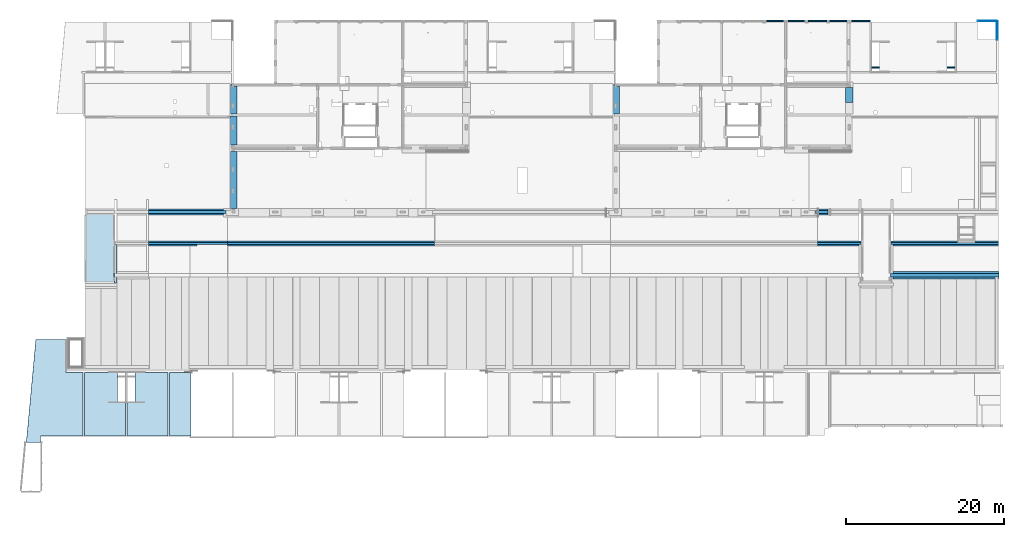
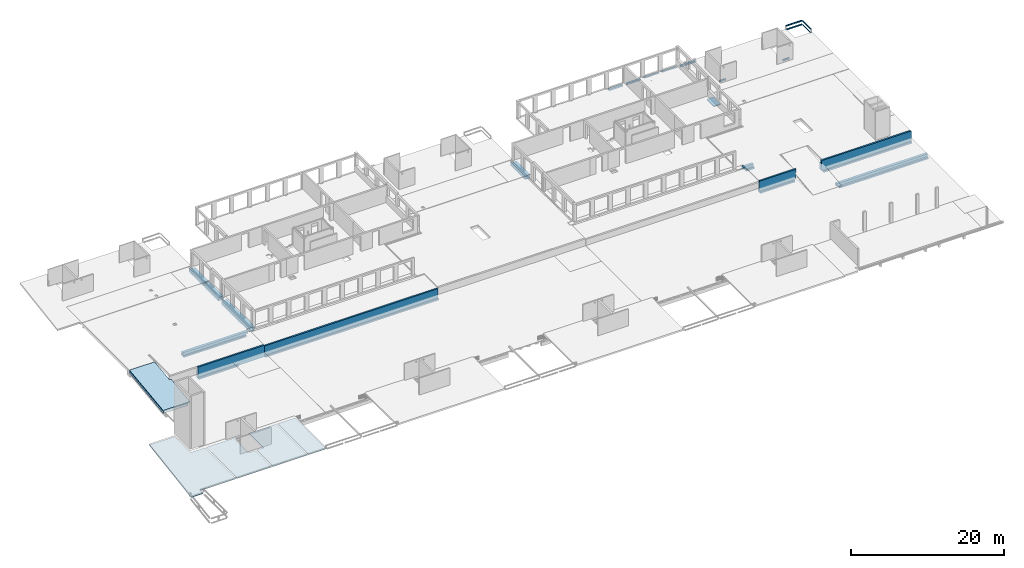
# One storey, part 14 of 36: 20 beams, 6 slabs, 1 opening.
"""IFC2X3 building model written with IfcOpenShell, lengths in millimetres."""

from ifc_helpers import new_model, entity, si_unit, converted_unit, derived_unit, direction, frame, frame_2d, origin, origin_2d_with_axis, place, context, subcontext, project, spatial, polyline, circle_curve, parameter, trimmed, segment, composite_curve, rectangle, i_section, outline, extrude, clip, halfspace, faceted_brep, source, transform, mapped, material, layer, layer_set, layer_usage, type_object, type_shapes, element, save


model = new_model("IFC2X3")

# Units and contexts
model_context = context("Model", 3, precision=0.01, world=origin(), true_north=direction((6.12303176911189e-17, 1.0)))
body_context = subcontext(model_context, "Body", "Model", "MODEL_VIEW")
ifc_project = project(units=[si_unit("LENGTHUNIT", "METRE", prefix="MILLI"), si_unit("AREAUNIT", "SQUARE_METRE"), si_unit("VOLUMEUNIT", "CUBIC_METRE"), converted_unit("PLANEANGLEUNIT", "DEGREE", entity("IfcRatioMeasure", 0.0174532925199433), si_unit("PLANEANGLEUNIT", "RADIAN"), dimensions=[0, 0, 0, 0, 0, 0, 0]), si_unit("MASSUNIT", "GRAM", prefix="KILO"), derived_unit("MASSDENSITYUNIT", [(si_unit("MASSUNIT", "GRAM", prefix="KILO"), 1), (si_unit("LENGTHUNIT", "METRE"), -3)]), si_unit("TIMEUNIT", "SECOND"), si_unit("FREQUENCYUNIT", "HERTZ"), si_unit("THERMODYNAMICTEMPERATUREUNIT", "DEGREE_CELSIUS"), derived_unit("THERMALTRANSMITTANCEUNIT", [(si_unit("MASSUNIT", "GRAM", prefix="KILO"), 1), (si_unit("THERMODYNAMICTEMPERATUREUNIT", "KELVIN"), -1), (si_unit("TIMEUNIT", "SECOND"), -3)]), derived_unit("VOLUMETRICFLOWRATEUNIT", [(si_unit("LENGTHUNIT", "METRE"), 3), (si_unit("TIMEUNIT", "SECOND"), -1)]), si_unit("ELECTRICCURRENTUNIT", "AMPERE"), si_unit("ELECTRICVOLTAGEUNIT", "VOLT"), si_unit("POWERUNIT", "WATT"), si_unit("FORCEUNIT", "NEWTON", prefix="KILO"), si_unit("ILLUMINANCEUNIT", "LUX"), si_unit("LUMINOUSFLUXUNIT", "LUMEN"), si_unit("LUMINOUSINTENSITYUNIT", "CANDELA"), derived_unit("USERDEFINED", [(si_unit("MASSUNIT", "GRAM", prefix="KILO"), -1), (si_unit("LENGTHUNIT", "METRE"), -2), (si_unit("TIMEUNIT", "SECOND"), 3), (si_unit("LUMINOUSFLUXUNIT", "LUMEN"), 1)]), derived_unit("LINEARVELOCITYUNIT", [(si_unit("LENGTHUNIT", "METRE"), 1), (si_unit("TIMEUNIT", "SECOND"), -1)]), si_unit("PRESSUREUNIT", "PASCAL"), derived_unit("USERDEFINED", [(si_unit("LENGTHUNIT", "METRE"), -2), (si_unit("MASSUNIT", "GRAM", prefix="KILO"), 1), (si_unit("TIMEUNIT", "SECOND"), -2)])], contexts=[model_context])

# Site, building, storey
site_placement = place(None, origin())
site = spatial("IfcSite", under=ifc_project, at=site_placement, Name="Default", CompositionType="ELEMENT")
building_placement = place(site_placement, origin())
building = spatial("IfcBuilding", under=site, at=building_placement, Name="niet gebruiken", CompositionType="ELEMENT")
storey_placement = place(building_placement, frame((0.0, 0.0, 12600.0)))
storey = spatial("IfcBuildingStorey", under=building, at=storey_placement, Name="04 vierde verdieping", CompositionType="ELEMENT", Elevation=12600.0)

# Beams
ifc_material_1 = material(Name="NLRS_f2_beton ihwg")
beam_type_1 = type_object("IfcBeamType", Name="250x280", PredefinedType="BEAM", material=ifc_material_1)
beam_1_placement = place(storey_placement, frame((105095.0, 53131.0, -340.0)))
element("IfcBeam", 1, at=beam_1_placement, inside=storey, type_object=beam_type_1, material=ifc_material_1, Name="NLRS_28.11_SF_WPB_betonbalk ihwg recht_gen:250x280", ObjectType="NLRS_28.11_SF_WPB_betonbalk ihwg recht_gen:250x280", context=body_context, shape_type="SweptSolid", body=[
    extrude(rectangle(XDim=279.999999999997, YDim=250.000000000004, at=frame_2d((0.0, 1.29958266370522e-11), x_axis=(1.0, 0.0))), frame((515.0, 0.0, -140.0), z_axis=(1.0, 0.0, 0.0), x_axis=(0.0, 0.0, -1.0)), (0.0, 0.0, 1.0), 2369.99999999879),
])
beam_type_2 = type_object("IfcBeamType", Name="250x280", PredefinedType="BEAM", material=ifc_material_1)
shared_shape_1 = source(origin(), body_context, "Body", "SweptSolid", [
    extrude(rectangle(XDim=2080.0000000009, YDim=250.000000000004, at=frame_2d((-8.64019966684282e-12, 4.33431068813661e-12), x_axis=(1.0, 0.0))), frame((95850.0, 53131.0, 11980.0), z_axis=(0.0, 0.0, 1.0), x_axis=(-1.0, 0.0, 0.0)), (0.0, 0.0, 1.0), 279.999999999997),
    extrude(rectangle(XDim=2079.99999999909, YDim=250.000000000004, at=frame_2d((-8.64019966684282e-12, 4.33431068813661e-12), x_axis=(1.0, 0.0))), frame((98550.0, 53131.0, 11980.0)), (0.0, 0.0, 1.0), 279.999999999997),
])
type_shapes(beam_type_2, [shared_shape_1])
beam_2_placement = place(storey_placement, frame((0.0, 0.0, -12600.0)))
element("IfcBeam", 2, at=beam_2_placement, inside=storey, type_object=beam_type_2, material=ifc_material_1, Name="NLRS_28.11_SF_WPB_betonbalk ihwg recht_gen:250x280", ObjectType="250x280", context=body_context, shape_type="MappedRepresentation", body=[
    mapped(shared_shape_1, transform((0.0, 0.0, 0.0), scale=1.0)),
])
ifc_material_2 = material(Name="NLRS_f2_beton prefab")
beam_type_3 = type_object("IfcBeamType", Name="NLRS_28.11_SF_WPB_prefabbeton balk dubbele sponning_gen:800x660/200x410/200x410", PredefinedType="BEAM")
beam_3_placement = place(storey_placement, frame((100990.0, 28481.0, -900.0)))
element("IfcBeam", 3, at=beam_3_placement, inside=storey, type_object=beam_type_3, material=ifc_material_2, Name="NLRS_28.11_SF_WPB_prefabbeton balk dubbele sponning_gen:800x660/200x410/200x410", ObjectType="NLRS_28.11_SF_WPB_prefabbeton balk dubbele sponning_gen:800x660/200x410/200x410", context=body_context, shape_type="Brep", body=[
    faceted_brep([(0.0, 200.0, 660.0), (0.0, 600.0, 660.0), (0.0, 600.0, 335.0), (0.0, 200.0, 335.0), (1610.0, 600.0, 660.0), (1610.0, 200.0, 660.0), (1610.0, 200.0, 250.0), (1610.0, 0.0, 250.0), (1610.0, 0.0, 0.0), (1610.0, 800.0, 0.0), (1610.0, 800.0, 250.0), (1610.0, 600.0, 250.0), (400.0, 0.0, 250.0), (400.0, 0.0, 0.0), (400.0, 600.0, 250.0), (400.0, 600.0, 335.0), (400.0, 800.0, 250.0), (400.0, 200.0, 335.0), (400.0, 200.0, 250.0), (400.0, 800.0, 0.0)], [[[0, 1, 2, 3]], [[4, 5, 6, 7, 8, 9, 10, 11]], [[1, 0, 5, 4]], [[8, 7, 12, 13]], [[4, 11, 14, 15, 2, 1]], [[11, 10, 16, 14]], [[6, 5, 0, 3, 17, 18]], [[7, 6, 18, 12]], [[10, 9, 19, 16]], [[9, 8, 13, 19]], [[17, 15, 14, 16, 19, 13, 12, 18]], [[15, 17, 3, 2]]]),
])
beam_4_placement = place(storey_placement, frame((16345.0, 28481.0, -900.0)))
element("IfcBeam", 4, at=beam_4_placement, inside=storey, type_object=beam_type_3, material=ifc_material_2, Name="NLRS_28.11_SF_WPB_prefabbeton balk dubbele sponning_gen:800x660/200x410/200x410", ObjectType="NLRS_28.11_SF_WPB_prefabbeton balk dubbele sponning_gen:800x660/200x410/200x410", context=body_context, shape_type="Brep", body=[
    faceted_brep([(0.0, 600.0, 660.0), (0.0, 600.0, 270.0), (0.0, 600.0, 250.0), (0.0, 800.0, 250.0), (0.0, 800.0, 0.0), (0.0, 0.0, 0.0), (0.0, 0.0, 250.0), (0.0, 200.0, 250.0), (0.0, 200.0, 270.0), (0.0, 200.0, 660.0), (9485.0, 0.0, 0.0), (9485.0, 0.0, 250.0), (9785.0, 600.0, 660.0), (9785.0, 200.0, 660.0), (9785.0, 200.0, 335.000000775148), (9785.0, 600.0, 335.000000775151), (9485.0, 600.0, 335.000000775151), (9485.0, 600.0, 250.0), (9485.0, 800.0, 250.0), (9485.0, 200.0, 250.0), (9485.0, 200.0, 335.000000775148), (9485.0, 800.0, 0.0)], [[[0, 1, 2, 3, 4, 5, 6, 7, 8, 9]], [[6, 5, 10, 11]], [[12, 13, 14, 15]], [[0, 9, 13, 12]], [[2, 1, 0, 12, 15, 16, 17]], [[3, 2, 17, 18]], [[9, 8, 7, 19, 20, 14, 13]], [[7, 6, 11, 19]], [[4, 3, 18, 21]], [[5, 4, 21, 10]], [[16, 20, 19, 11, 10, 21, 18, 17]], [[20, 16, 15, 14]]]),
])
beam_type_4 = type_object("IfcBeamType", Name="NLRS_28.11_SF_WPB_prefabbeton balk dubbele sponning_gen:900x660/250x410/250x410", PredefinedType="BEAM")
beam_5_placement = place(storey_placement, frame((110525.0, 20396.0, -2020.0)))
element("IfcBeam", 5, at=beam_5_placement, inside=storey, type_object=beam_type_4, material=ifc_material_2, Name="NLRS_28.11_SF_WPB_prefabbeton balk dubbele sponning_gen:900x660/250x410/250x410", ObjectType="NLRS_28.11_SF_WPB_prefabbeton balk dubbele sponning_gen:900x660/250x410/250x410", context=body_context, shape_type="Brep", body=[
    faceted_brep([(0.0, 250.0, 660.0), (0.0, 650.0, 660.0), (0.0, 650.0, 270.0), (0.0, 250.0, 270.0), (13755.0, 650.0, 660.0), (13755.0, 250.0, 660.0), (13755.0, 250.0, 250.0), (13755.0, 0.0, 250.0), (13755.0, 0.0, 0.0), (13755.0, 900.0, 0.0), (13755.0, 900.0, 250.0), (13755.0, 650.0, 250.0), (320.0, 0.0, 250.0), (320.0, 0.0, 0.0), (320.0, 650.0, 250.0), (320.0, 650.0, 270.0), (320.0, 900.0, 250.0), (320.0, 250.0, 270.0), (320.0, 250.0, 250.0), (320.0, 900.0, 0.0)], [[[0, 1, 2, 3]], [[4, 5, 6, 7, 8, 9, 10, 11]], [[1, 0, 5, 4]], [[8, 7, 12, 13]], [[4, 11, 14, 15, 2, 1]], [[11, 10, 16, 14]], [[6, 5, 0, 3, 17, 18]], [[7, 6, 18, 12]], [[10, 9, 19, 16]], [[9, 8, 13, 19]], [[17, 15, 14, 16, 19, 13, 12, 18]], [[15, 17, 3, 2]]]),
])
beam_type_5 = type_object("IfcBeamType", Name="NLRS_28.11_SF_WPB_prefabbeton balk dubbele sponning_gen:650x1860/200x1530/200x490", PredefinedType="BEAM")
beam_6_placement = place(storey_placement, frame((110575.0, 24551.0, -2020.0)))
element("IfcBeam", 6, at=beam_6_placement, inside=storey, type_object=beam_type_5, material=ifc_material_2, Name="NLRS_28.11_SF_WPB_prefabbeton balk dubbele sponning_gen:650x1860/200x1530/200x490", ObjectType="NLRS_28.11_SF_WPB_prefabbeton balk dubbele sponning_gen:650x1860/200x1530/200x490", context=body_context, shape_type="Brep", body=[
    faceted_brep([(0.0, 450.0, 1370.0), (0.0, 650.0, 1370.0), (0.0, 650.0, 1327.46037565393), (0.0, 650.0, 275.0), (0.0, 200.0, 275.0), (0.0, 200.0, 1271.30609318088), (0.0, 200.0, 1372.08167895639), (0.0, 200.0, 1860.0), (0.0, 450.0, 1860.0), (0.0, 450.0, 1403.27850255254), (13625.0, 650.0, 1370.0), (13625.0, 650.0, 0.0), (270.0, 650.0, 0.0), (270.0, 650.0, 275.0), (8500.0, 650.0, 1370.0), (10650.0, 650.0, 1370.0), (13625.0, 450.0, 1370.0), (13625.0, 450.0, 1780.0), (13625.0, 450.0, 1859.0), (13625.0, 450.0, 1860.0), (13625.0, 200.0, 1860.0), (13625.0, 200.0, 760.0), (13625.0, 200.0, 660.0), (13625.0, 200.0, 255.0), (13625.0, 0.0, 255.0), (13625.0, 0.0, 0.0), (10650.0, 450.0, 1860.0), (8500.0, 450.0, 1860.0), (250.0, 450.0, 1860.0), (270.0, 200.0, 275.0), (270.0, 200.0, 255.0), (270.0, 0.0, 255.0), (10650.0, 450.0, 1370.0), (8500.0, 450.0, 1370.0), (270.0, 0.0, 0.0)], [[[0, 1, 2, 3, 4, 5, 6, 7, 8, 9]], [[10, 11, 12, 13, 3, 2, 1, 14, 15]], [[11, 10, 16, 17, 18, 19, 20, 21, 22, 23, 24, 25]], [[20, 19, 26, 27, 28, 8, 7]], [[20, 7, 6, 5, 4, 29, 30, 23, 22, 21]], [[24, 23, 30, 31]], [[16, 32, 33, 0, 9, 8, 28, 27, 26, 19, 18, 17]], [[1, 0, 33, 32, 16, 10, 15, 14]], [[25, 24, 31, 34]], [[11, 25, 34, 12]], [[29, 13, 12, 34, 31, 30]], [[13, 29, 4, 3]]]),
])
beam_7_placement = place(storey_placement, frame((16345.0, 24551.0, -2020.0)))
element("IfcBeam", 7, at=beam_7_placement, inside=storey, type_object=beam_type_5, material=ifc_material_2, Name="NLRS_28.11_SF_WPB_prefabbeton balk dubbele sponning_gen:650x1860/200x1530/200x490", ObjectType="NLRS_28.11_SF_WPB_prefabbeton balk dubbele sponning_gen:650x1860/200x1530/200x490", context=body_context, shape_type="Brep", body=[
    faceted_brep([(0.0, 450.0, 1370.0), (0.0, 650.0, 1370.0), (0.0, 650.0, 275.0), (0.0, 650.0, 0.0), (0.0, 0.0, 0.0), (0.0, 0.0, 255.0), (0.0, 200.0, 255.0), (0.0, 200.0, 275.0), (0.0, 200.0, 660.0), (0.0, 200.0, 760.0), (0.0, 200.0, 1860.0), (0.0, 450.0, 1860.0), (0.0, 450.0, 1859.0), (0.0, 450.0, 1780.0), (10005.0, 650.0, 1370.0), (10005.0, 650.0, 0.0), (10005.0, 450.0, 1370.0), (10005.0, 450.0, 1715.0), (10005.0, 450.0, 1780.0), (10005.0, 450.0, 1859.0), (10005.0, 450.0, 1860.0), (10005.0, 200.0, 1860.0), (10005.0, 200.0, 1715.0), (10005.0, 200.0, 760.0), (10005.0, 200.0, 660.0), (10005.0, 200.0, 0.0), (6105.0, 200.0, 255.0), (6105.0, 200.0, 0.0), (6105.0, 0.0, 255.0), (6105.0, 0.0, 0.0)], [[[0, 1, 2, 3, 4, 5, 6, 7, 8, 9, 10, 11, 12, 13]], [[3, 2, 1, 14, 15]], [[15, 14, 16, 17, 18, 19, 20, 21, 22, 23, 24, 25]], [[21, 20, 11, 10]], [[6, 26, 27, 25, 24, 23, 22, 21, 10, 9, 8, 7]], [[6, 5, 28, 26]], [[11, 20, 19, 18, 17, 16, 0, 13, 12]], [[1, 0, 16, 14]], [[5, 4, 29, 28]], [[4, 3, 15, 25, 27, 29]], [[27, 26, 28, 29]]]),
])
beam_8_placement = place(storey_placement, frame((101260.0, 24551.0, -2020.0)))
element("IfcBeam", 8, at=beam_8_placement, inside=storey, type_object=beam_type_5, material=ifc_material_2, Name="NLRS_28.11_SF_WPB_prefabbeton balk dubbele sponning_gen:650x1860/200x1530/200x490", ObjectType="NLRS_28.11_SF_WPB_prefabbeton balk dubbele sponning_gen:650x1860/200x1530/200x490", context=body_context, shape_type="Brep", body=[
    faceted_brep([(0.0, 450.0, 1370.0), (0.0, 650.0, 1370.0), (0.0, 650.0, 0.0), (0.0, 0.0, 0.0), (0.0, 0.0, 255.0), (0.0, 200.0, 255.0), (0.0, 200.0, 660.0), (0.0, 200.0, 760.0), (0.0, 200.0, 1860.0), (0.0, 450.0, 1860.0), (0.0, 450.0, 1859.0), (0.0, 450.0, 1780.0), (5515.0, 650.0, 1370.0), (5515.0, 650.0, 1327.46037565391), (5515.0, 650.0, 275.0), (5245.0, 650.0, 275.0), (5245.0, 650.0, 0.0), (5515.0, 450.0, 1370.0), (5515.0, 450.0, 1403.27850255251), (5515.0, 450.0, 1860.0), (5515.0, 200.0, 1860.0), (5515.0, 200.0, 1372.08167895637), (5515.0, 200.0, 1271.30609318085), (5515.0, 200.0, 275.0), (5265.0, 450.0, 1860.0), (5260.0, 450.0, 1860.0), (5245.0, 200.0, 255.0), (5245.0, 200.0, 275.0), (5245.0, 0.0, 255.0), (5245.0, 0.0, 0.0)], [[[0, 1, 2, 3, 4, 5, 6, 7, 8, 9, 10, 11]], [[2, 1, 12, 13, 14, 15, 16]], [[12, 17, 18, 19, 20, 21, 22, 23, 14, 13]], [[20, 19, 24, 25, 9, 8]], [[20, 8, 7, 6, 5, 26, 27, 23, 22, 21]], [[5, 4, 28, 26]], [[17, 0, 11, 10, 9, 25, 24, 19, 18]], [[1, 0, 17, 12]], [[4, 3, 29, 28]], [[3, 2, 16, 29]], [[27, 15, 14, 23]], [[15, 27, 26, 28, 29, 16]]]),
])
beam_type_6 = type_object("IfcBeamType", Name="NLRS_28.11_SF_WPB_prefabbeton balk dubbele sponning_gen:650x1715/200x1530/200x345", PredefinedType="BEAM")
beam_9_placement = place(storey_placement, frame((26350.0, 24551.0, -2020.0)))
element("IfcBeam", 9, at=beam_9_placement, inside=storey, type_object=beam_type_6, material=ifc_material_2, Name="NLRS_28.11_SF_WPB_prefabbeton balk dubbele sponning_gen:650x1715/200x1530/200x345", ObjectType="NLRS_28.11_SF_WPB_prefabbeton balk dubbele sponning_gen:650x1715/200x1530/200x345", context=body_context, shape_type="Brep", body=[
    faceted_brep([(0.0, 450.0, 1370.0), (0.0, 650.0, 1370.0), (0.0, 650.0, 0.0), (0.0, 200.0, 0.0), (0.0, 200.0, 1715.0), (0.0, 450.0, 1715.0), (26300.0, 650.0, 1370.0), (26300.0, 650.0, 0.0), (26300.0, 450.0, 1370.0), (26300.0, 450.0, 1715.0), (26300.0, 200.0, 1715.0), (26300.0, 200.0, 760.0), (26300.0, 200.0, 660.0), (26300.0, 200.0, 255.0), (26300.0, 0.0, 255.0), (26300.0, 0.0, 0.0), (20.0, 200.0, 255.0), (20.0, 200.0, 0.0), (20.0, 0.0, 255.0), (20.0, 0.0, 0.0)], [[[0, 1, 2, 3, 4, 5]], [[2, 1, 6, 7]], [[7, 6, 8, 9, 10, 11, 12, 13, 14, 15]], [[10, 9, 5, 4]], [[16, 13, 12, 11, 10, 4, 3, 17]], [[14, 13, 16, 18]], [[9, 8, 0, 5]], [[1, 0, 8, 6]], [[15, 14, 18, 19]], [[2, 7, 15, 19, 17, 3]], [[16, 17, 19, 18]]]),
])
beam_type_7 = type_object("IfcBeamType", Name="800x810", PredefinedType="BEAM", material=ifc_material_1)
shared_shape_2 = source(origin(), body_context, "Body", "SolidModel", [
    extrude(outline(polyline([(-274.0, -4350.0), (286.0, -4350.0), (286.0, 2900.0), (-24.0, 2900.0), (-274.0, 2900.0), (-274.0, -4350.0)]), holes=[composite_curve([segment(trimmed(circle_curve(frame_2d((-144.0, -700.0), x_axis=(0.0, -1.0)), 37.5), [parameter(180.0)], [parameter(0.0)], True, "PARAMETER"), False, "CONTINUOUS"), segment(trimmed(circle_curve(frame_2d((-144.0, -700.0), x_axis=(0.0, -1.0)), 37.5), [parameter(0.0)], [parameter(180.0)], True, "PARAMETER"), False, "CONTINUOUS")], self_intersect=False)]), frame((26725.0, 32206.0, 11974.0), z_axis=(1.0, 0.0, 0.0), x_axis=(0.0, 0.0, 1.0)), (0.0, 0.0, 1.0), 800.0),
    faceted_brep([(26900.0, 41041.0, 12360.0), (27505.0, 41041.0, 12360.0), (27505.0, 41061.0, 12360.0), (26900.0, 41061.0, 12360.0), (26725.0, 41061.0, 12360.0), (26725.0, 41041.0, 12360.0), (27525.0, 41061.0, 11700.0), (26725.0, 41061.0, 11700.0), (26725.0, 41061.0, 12185.0), (26725.0, 41061.0, 12260.0), (27505.0, 41061.0, 12330.0), (27505.0, 41061.0, 12260.0), (27525.0, 41061.0, 12260.0), (27525.0, 37406.0, 11700.0), (27525.0, 37406.0, 12260.0), (27505.0, 37406.0, 12260.0), (26725.0, 37406.0, 12260.0), (26725.0, 37406.0, 11700.0), (27505.0, 41041.0, 12260.0), (26725.0, 41041.0, 12260.0), (27505.0, 41041.0, 12330.0)], [[[0, 1, 2, 3, 4, 5]], [[6, 7, 8, 9, 4, 3, 2, 10, 11, 12]], [[13, 14, 15, 16, 17]], [[12, 11, 18, 19, 16, 15, 14]], [[19, 18, 20, 1, 0, 5]], [[7, 6, 13, 17]], [[2, 1, 20, 18, 11, 10]], [[14, 13, 6, 12]], [[7, 17, 16, 19, 5, 4, 9, 8]]]),
])
type_shapes(beam_type_7, [shared_shape_2])
beam_10_placement = place(storey_placement, frame((0.0, 0.0, -12600.0)))
element("IfcBeam", 10, at=beam_10_placement, inside=storey, type_object=beam_type_7, material=ifc_material_1, Name="NLRS_28.11_SF_WPB_betonbalk ihwg recht_gen:800x810", ObjectType="800x810", context=body_context, shape_type="MappedRepresentation", body=[
    mapped(shared_shape_2, transform((0.0, 0.0, 0.0), scale=1.0)),
])
beam_11_placement = place(storey_placement, frame((26725.0, 41311.0, -900.0), z_axis=(0.0, 0.0, 1.0), x_axis=(0.0, 1.0, 0.0)))
element("IfcBeam", 11, at=beam_11_placement, inside=storey, type_object=beam_type_7, material=ifc_material_1, Name="NLRS_28.11_SF_WPB_betonbalk ihwg recht_gen:800x810", ObjectType="NLRS_28.11_SF_WPB_betonbalk ihwg recht_gen:800x810", context=body_context, shape_type="Brep", body=[
    faceted_brep([(0.0, -800.0, 560.0), (0.0, 0.0, 560.0), (0.0, 0.0, 485.0), (0.0, 0.0, 0.0), (0.0, -800.0, 0.0), (3595.0, -800.0, 560.0), (3595.0, -125.0, 560.0), (3845.0, -125.0, 560.0), (3845.0, 0.0, 560.0), (3845.0, 0.0, 0.0), (3845.0, -125.0, 0.0), (3095.0, 0.0, 285.0), (2755.0, 0.0, 285.0), (2755.0, 0.0, 185.0), (3095.0, 0.0, 185.0), (3595.0, -125.0, 0.0), (3595.0, -800.0, 0.0), (2755.0, -800.0, 285.0), (3095.0, -800.0, 285.0), (3095.0, -800.0, 185.0), (2755.0, -800.0, 185.0)], [[[0, 1, 2, 3, 4]], [[1, 0, 5, 6, 7, 8]], [[9, 8, 7, 10]], [[3, 2, 1, 8, 9], [11, 12, 13, 14]], [[4, 3, 9, 10, 15, 16]], [[0, 4, 16, 5], [17, 18, 19, 20]], [[15, 6, 5, 16]], [[6, 15, 10, 7]], [[17, 12, 11, 18]], [[19, 14, 13, 20]], [[18, 11, 14, 19]], [[12, 17, 20, 13]]]),
])
beam_12_placement = place(storey_placement, frame((75325.0, 41311.0, -900.0), z_axis=(0.0, 0.0, 1.0), x_axis=(0.0, 1.0, 0.0)))
element("IfcBeam", 12, at=beam_12_placement, inside=storey, type_object=beam_type_7, material=ifc_material_1, Name="NLRS_28.11_SF_WPB_betonbalk ihwg recht_gen:800x810", ObjectType="NLRS_28.11_SF_WPB_betonbalk ihwg recht_gen:800x810", context=body_context, shape_type="Brep", body=[
    faceted_brep([(0.0, -800.0, 560.0), (0.0, 0.0, 560.0), (0.0, 0.0, 490.0), (0.0, 0.0, 0.0), (0.0, -800.0, 0.0), (3595.0, -800.0, 560.0), (3595.0, -125.0, 560.0), (3845.0, -125.0, 560.0), (3845.0, 0.0, 560.0), (3845.0, 0.0, 0.0), (3845.0, -125.0, 0.0), (3595.0, -125.0, 0.0), (3595.0, -800.0, 0.0)], [[[0, 1, 2, 3, 4]], [[1, 0, 5, 6, 7, 8]], [[9, 8, 7, 10]], [[3, 2, 1, 8, 9]], [[4, 3, 9, 10, 11, 12]], [[0, 4, 12, 5]], [[11, 6, 5, 12]], [[6, 11, 10, 7]]]),
])
beam_type_8 = type_object("IfcBeamType", Name="NLRS_28.11_SF_WPB_betonbalk ihwg recht_gen:1000x150", PredefinedType="BEAM")
beam_13_placement = place(storey_placement, frame((105275.0, 42806.0, -340.0), z_axis=(0.0, 0.0, 1.0), x_axis=(0.0, 1.0, 0.0)))
element("IfcBeam", 13, at=beam_13_placement, inside=storey, type_object=beam_type_8, material=ifc_material_1, Name="NLRS_28.11_SF_WPB_betonbalk ihwg recht_gen:1000x150", ObjectType="NLRS_28.11_SF_WPB_betonbalk ihwg recht_gen:1000x150", context=body_context, shape_type="SweptSolid", body=[
    extrude(rectangle(XDim=149.999999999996, YDim=999.999999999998, at=frame_2d((0.0, -8.66862137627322e-12), x_axis=(1.0, 0.0))), frame((0.0, 0.0, -75.0), z_axis=(1.0, 0.0, 0.0), x_axis=(0.0, 0.0, -1.0)), (0.0, 0.0, 1.0), 1875.00000000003),
])
beam_type_9 = type_object("IfcBeamType", Name="NLRS_28.11_SF_WPB_betonbalk ihwg recht_gen:180x250", PredefinedType="BEAM")
for number, where, name in (
    (14, (108125.0, 47236.0, -90.0), "NLRS_28.11_SF_WPB_betonbalk ihwg recht_gen:180x250"),
    (15, (117705.0, 47236.0, -90.0), "NLRS_28.11_SF_WPB_betonbalk ihwg recht_gen:180x250"),
):
    element("IfcBeam", number, at=place(storey_placement, frame(where)), inside=storey, type_object=beam_type_9, material=ifc_material_1, Name=name, ObjectType="NLRS_28.11_SF_WPB_betonbalk ihwg recht_gen:180x250", context=body_context, shape_type="SweptSolid", body=[
        extrude(rectangle(XDim=249.999999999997, YDim=180.000000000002, at=frame_2d((1.08002495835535e-12, -4.33431068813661e-12), x_axis=(1.0, 0.0))), frame((0.0, 0.0, -125.0), z_axis=(1.0, 0.0, 0.0), x_axis=(0.0, 0.0, -1.0)), (0.0, 0.0, 1.0), 970.000000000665),
    ])
beam_type_10 = type_object("IfcBeamType", Name="250x100", PredefinedType="BEAM", material=ifc_material_1)
shared_shape_3 = source(origin(), body_context, "Body", "SweptSolid", [
    extrude(rectangle(XDim=2289.99999999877, YDim=250.000000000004, at=frame_2d((-8.64019966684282e-12, 0.0), x_axis=(1.0, 0.0))), frame((101250.0, 53131.0, 12160.0)), (0.0, 0.0, 1.0), 100.000000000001),
    extrude(rectangle(XDim=2290.00000000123, YDim=250.000000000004, at=frame_2d((8.75388650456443e-12, 0.0), x_axis=(1.0, 0.0))), frame((103950.0, 53131.0, 12160.0), z_axis=(0.0, 0.0, 1.0), x_axis=(-1.0, 0.0, 0.0)), (0.0, 0.0, 1.0), 100.000000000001),
])
type_shapes(beam_type_10, [shared_shape_3])
beam_14_placement = place(storey_placement, frame((0.0, 0.0, -12600.0)))
element("IfcBeam", 16, at=beam_14_placement, inside=storey, type_object=beam_type_10, material=ifc_material_1, Name="NLRS_28.11_SF_WPB_betonbalk ihwg recht_gen:250x100", ObjectType="250x100", context=body_context, shape_type="MappedRepresentation", body=[
    mapped(shared_shape_3, transform((0.0, 0.0, 0.0), scale=1.0)),
])
ifc_material_3 = material(Name="NLRS_h2_staal")
beam_type_11 = type_object("IfcBeamType", Name="NLRS_28.11_SF_WPB_stalen ligger HEA_gen:ligger HEA 120", PredefinedType="BEAM")
beam_15_placement = place(storey_placement, frame((121600.0, 53188.0, -260.0)))
element("IfcBeam", 17, at=beam_15_placement, inside=storey, type_object=beam_type_11, material=ifc_material_3, Name="NLRS_28.11_SF_WPB_stalen ligger HEA_gen:ligger HEA 120", ObjectType="NLRS_28.11_SF_WPB_stalen ligger HEA_gen:ligger HEA 120", context=body_context, shape_type="SweptSolid", body=[
    extrude(i_section(OverallWidth=119.999999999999, OverallDepth=114.0, WebThickness=5.00000000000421, FlangeThickness=8.00000000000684, FilletRadius=11.9999999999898, at=frame_2d((-2.16360263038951e-12, 4.33075797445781e-12), x_axis=(1.0, 0.0))), frame((0.0, -57.0, 0.0), z_axis=(1.0, 0.0, 0.0), x_axis=(0.0, 0.0, -1.0)), (0.0, 0.0, 1.0), 2414.99999999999),
])
beam_16_placement = place(storey_placement, frame((124018.0, 50756.0, -260.0), z_axis=(0.0, 0.0, 1.0), x_axis=(0.0, 1.0, 0.0)))
element("IfcBeam", 18, at=beam_16_placement, inside=storey, type_object=beam_type_11, material=ifc_material_3, Name="NLRS_28.11_SF_WPB_stalen ligger HEA_gen:ligger HEA 120", ObjectType="NLRS_28.11_SF_WPB_stalen ligger HEA_gen:ligger HEA 120", context=body_context, shape_type="SweptSolid", body=[
    extrude(i_section(OverallWidth=119.999999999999, OverallDepth=114.000000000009, WebThickness=4.99999999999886, FlangeThickness=7.99999999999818, FilletRadius=11.9999999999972, at=frame_2d((-2.16715534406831e-12, 0.0), x_axis=(1.0, 0.0))), frame((0.0, -57.0, 0.0), z_axis=(1.0, 0.0, 0.0), x_axis=(0.0, 0.0, -1.0)), (0.0, 0.0, 1.0), 2317.99999999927),
])
beam_17_placement = place(storey_placement, frame((121600.0, 53188.0, 340.0)))
element("IfcBeam", 19, at=beam_17_placement, inside=storey, type_object=beam_type_11, material=ifc_material_3, Name="NLRS_28.11_SF_WPB_stalen ligger HEA_gen:ligger HEA 120", ObjectType="NLRS_28.11_SF_WPB_stalen ligger HEA_gen:ligger HEA 120", context=body_context, shape_type="SweptSolid", body=[
    extrude(i_section(OverallWidth=119.999999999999, OverallDepth=114.0, WebThickness=5.00000000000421, FlangeThickness=8.00000000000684, FilletRadius=11.9999999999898, at=frame_2d((0.0, 4.33075797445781e-12), x_axis=(1.0, 0.0))), frame((0.0, -57.0, 0.0), z_axis=(1.0, 0.0, 0.0), x_axis=(0.0, 0.0, -1.0)), (0.0, 0.0, 1.0), 2414.99999999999),
])
beam_18_placement = place(storey_placement, frame((124018.0, 50756.0, 340.0), z_axis=(0.0, 0.0, 1.0), x_axis=(0.0, 1.0, 0.0)))
element("IfcBeam", 20, at=beam_18_placement, inside=storey, type_object=beam_type_11, material=ifc_material_3, Name="NLRS_28.11_SF_WPB_stalen ligger HEA_gen:ligger HEA 120", ObjectType="NLRS_28.11_SF_WPB_stalen ligger HEA_gen:ligger HEA 120", context=body_context, shape_type="SweptSolid", body=[
    extrude(i_section(OverallWidth=119.999999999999, OverallDepth=114.000000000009, WebThickness=4.99999999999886, FlangeThickness=7.99999999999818, FilletRadius=11.9999999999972, at=origin_2d_with_axis()), frame((0.0, -57.0, 0.0), z_axis=(1.0, 0.0, 0.0), x_axis=(0.0, 0.0, -1.0)), (0.0, 0.0, 1.0), 2317.99999999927),
])

# Slab, opening
ifc_layer_1 = layer(ifc_material_2, 400.0)
ifc_layer_set_1 = layer_set([ifc_layer_1], Name="Floor:NLRS_23.21_FL_kanaalplaat d=400_gen")
ifc_layer_usage_1 = layer_usage(ifc_layer_set_1, "AXIS3", "POSITIVE", 0.0)
slab_1_placement = place(storey_placement, frame((8245.0, 19846.0952992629, -1763.8660367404)))
slab_1 = element("IfcSlab", 21, at=slab_1_placement, inside=storey, material=ifc_layer_usage_1, Name="Floor:NLRS_23.21_FL_kanaalplaat d=400_gen", ObjectType="Floor:NLRS_23.21_FL_kanaalplaat d=400_gen", PredefinedType="FLOOR", context=body_context, shape_type="SweptSolid", body=[
    extrude(rectangle(XDim=3760.00000000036, YDim=8883.36788611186, at=frame_2d((-4050.0, 4441.68394305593), x_axis=(-1.0, 0.0))), frame((5930.0, 0.0, 403.102343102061), z_axis=(0.0, -0.123826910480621, 0.992303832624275), x_axis=(1.0, 0.0, 0.0)), (0.0, -0.123826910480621, -0.992303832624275), 403.102343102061),
])
opening_placement = place(slab_1_placement, origin())
element("IfcOpeningElement", 22, at=opening_placement, cuts=slab_1, ObjectType="Opening", context=body_context, shape_type="SweptSolid", body=[
    extrude(rectangle(XDim=500.000000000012, YDim=65.0000000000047, at=frame_2d((0.0, 0.0), x_axis=(0.0, 1.0))), frame((3727.50000000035, 428.626831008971, 284.712008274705), z_axis=(0.0, 0.992303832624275, 0.123826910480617), x_axis=(-1.0, 0.0, 0.0)), (0.0, 0.0, 1.0), 1085.0),
])

# Slabs
ifc_layer_2 = layer(ifc_material_1, 100.0)
ifc_layer_set_2 = layer_set([ifc_layer_2], Name="Floor:NLRS_23.21_FL_druklaag d=100_gen")
ifc_layer_usage_2 = layer_usage(ifc_layer_set_2, "AXIS3", "POSITIVE", 0.0)
slab_2_placement = place(storey_placement, origin())
element("IfcSlab", 23, at=slab_2_placement, inside=storey, material=ifc_layer_usage_2, Name="Floor:NLRS_23.21_FL_druklaag d=100_gen", ObjectType="Floor:NLRS_23.21_FL_druklaag d=100_gen", PredefinedType="FLOOR", context=body_context, shape_type="Clipping", body=[
    clip(clip(extrude(outline(polyline([(-4608.80345613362, -2616.66666666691), (4274.56442997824, -2616.66666666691), (4274.56442997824, 1183.33333333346), (334.239026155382, 1183.33333333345), (334.239026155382, 1433.33333333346), (-4608.80345613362, 1433.33333333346), (-4608.80345613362, -2616.66666666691)])), frame((10841.6666666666, 24419.3333333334, -689.306107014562), z_axis=(0.0, 0.123826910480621, -0.992303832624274), x_axis=(0.0, 0.992303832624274, 0.123826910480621)), (-0.123826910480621, 0.0, 0.992303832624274), 101.557186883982), halfspace(frame((10260.0, 19846.0, -1360.77558577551), z_axis=(0.0, 0.123826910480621, -0.992303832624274), x_axis=(0.0, 0.992303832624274, 0.123826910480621)), False)), halfspace(frame((10260.0, 19846.0, -1260.0), z_axis=(0.0, -0.123826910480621, 0.992303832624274), x_axis=(0.0, -0.992303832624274, -0.123826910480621)), False)),
])
ifc_layer_3 = layer(ifc_material_2, 70.0)
ifc_layer_set_3 = layer_set([ifc_layer_3], Name="Floor:NLRS_23.21_FL_breedplaatschil d=70_gen")
ifc_layer_usage_3 = layer_usage(ifc_layer_set_3, "AXIS3", "POSITIVE", 0.0)
slab_3_placement = place(storey_placement, origin())
element("IfcSlab", 24, at=slab_3_placement, inside=storey, material=ifc_layer_usage_3, Name="Floor:NLRS_23.21_FL_breedplaatschil d=70_gen", ObjectType="Floor:NLRS_23.21_FL_breedplaatschil d=70_gen", PredefinedType="FLOOR", context=body_context, shape_type="SweptSolid", body=[
    extrude(outline(polyline([(-4114.0, -3120.0), (3982.0, -3120.0), (3982.0, 1050.0), (132.0, 1050.0), (132.0, 2070.0), (-4114.0, 2070.0), (-4114.0, -3120.0)])), frame((11325.0, 4534.0, -270.0), z_axis=(0.0, 0.0, -1.0), x_axis=(0.0, 1.0, 0.0)), (0.0, 0.0, 1.0), 69.9999999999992),
])
ifc_layer_usage_4 = layer_usage(ifc_layer_set_3, "AXIS3", "POSITIVE", 0.0)
slab_4_placement = place(storey_placement, origin())
element("IfcSlab", 25, at=slab_4_placement, inside=storey, material=ifc_layer_usage_4, Name="Floor:NLRS_23.21_FL_breedplaatschil d=70_gen", ObjectType="Floor:NLRS_23.21_FL_breedplaatschil d=70_gen", PredefinedType="FLOOR", context=body_context, shape_type="SweptSolid", body=[
    extrude(outline(polyline([(2159.51989374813, -6366.60000000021), (3937.95630347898, -6366.60000000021), (2725.88454653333, 6709.40000000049), (-1135.48010625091, 6709.40000000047), (-1135.48010625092, 2724.39999999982), (-1100.48010625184, 2724.39999999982), (-1100.48010625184, 2514.39999999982), (-3255.48010625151, 2514.39999999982), (-3255.48010625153, -5581.5999999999), (2159.51989374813, -5581.59999999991), (2159.51989374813, -6366.60000000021)])), frame((4739.51989374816, 6001.60000000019, -270.0), z_axis=(0.0, 0.0, -1.0), x_axis=(-1.0, 0.0, 0.0)), (0.0, 0.0, 1.0), 69.9999999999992),
])
ifc_layer_usage_5 = layer_usage(ifc_layer_set_3, "AXIS3", "POSITIVE", 0.0)
slab_5_placement = place(storey_placement, origin())
element("IfcSlab", 26, at=slab_5_placement, inside=storey, material=ifc_layer_usage_5, Name="Floor:NLRS_23.21_FL_breedplaatschil d=70_gen", ObjectType="Floor:NLRS_23.21_FL_breedplaatschil d=70_gen", PredefinedType="FLOOR", context=body_context, shape_type="SweptSolid", body=[
    extrude(outline(polyline([(-4114.0, -2070.0), (132.0, -2070.0), (132.0, -1050.0), (3982.0, -1050.0), (3982.0, 3120.0), (-4114.0, 3120.0), (-4114.0, -2070.0)])), frame((15675.0, 4534.0, -270.0), z_axis=(0.0, 0.0, -1.0), x_axis=(0.0, 1.0, 0.0)), (0.0, 0.0, 1.0), 69.9999999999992),
])
ifc_layer_usage_6 = layer_usage(ifc_layer_set_3, "AXIS3", "POSITIVE", 0.0)
slab_6_placement = place(storey_placement, origin())
element("IfcSlab", 27, at=slab_6_placement, inside=storey, material=ifc_layer_usage_6, Name="Floor:NLRS_23.21_FL_breedplaatschil d=70_gen", ObjectType="Floor:NLRS_23.21_FL_breedplaatschil d=70_gen", PredefinedType="FLOOR", context=body_context, shape_type="SweptSolid", body=[
    extrude(rectangle(XDim=8095.99999999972, YDim=2675.00000000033, at=frame_2d((0.0, -1.13686837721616e-12), x_axis=(1.0, 0.0))), frame((20342.4999999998, 4468.0, -270.0), z_axis=(0.0, 0.0, -1.0), x_axis=(0.0, 1.0, 0.0)), (0.0, 0.0, 1.0), 69.9999999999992),
])

save(model, "model.ifc")
